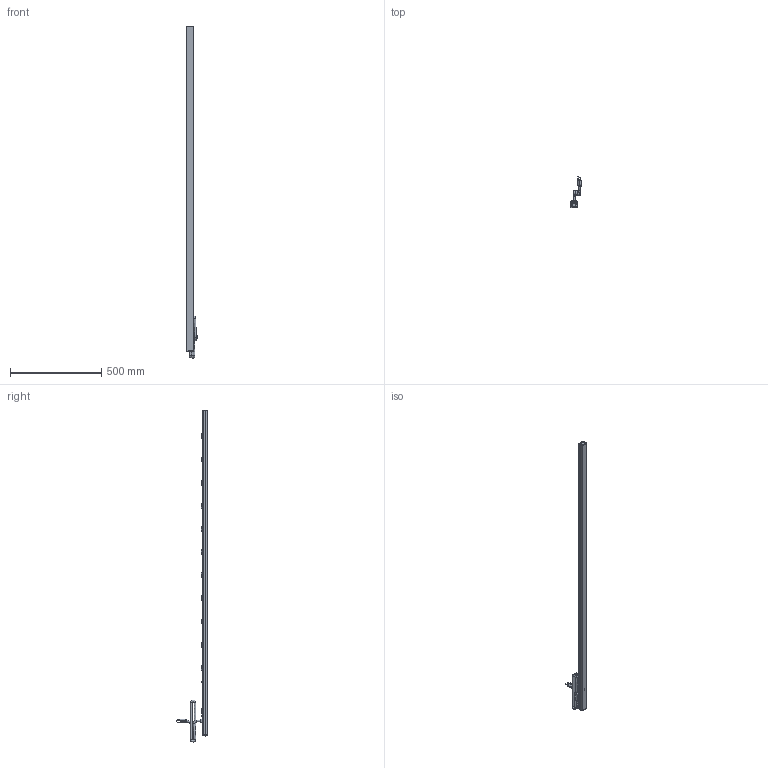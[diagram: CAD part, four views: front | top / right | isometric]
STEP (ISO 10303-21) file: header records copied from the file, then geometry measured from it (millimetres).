
FILE_DESCRIPTION(/* description */ (''),/* implementation_level */ '2;1');
FILE_NAME(/* name */ 'E:\Manufacturing\drawings\Web Drawings\POWER BARS\Surge Protection\1585, 87, 88 ''S'' series\STEP''s\1587T11A1S.stp',/* time_stamp */ '2019-01-14T12:58:12-05:00',/* author */ ('tfoster'),/* organization */ (''),/* preprocessor_version */ 'ST-DEVELOPER v17',/* originating_system */ 'Autodesk Inventor 2019',/* authorisation */ '');
FILE_SCHEMA (('AUTOMOTIVE_DESIGN { 1 0 10303 214 3 1 1 }'));
Length unit declared in the file: inch
Products named in the file (12): 1587T11A1S; 1587H11 top; 1585 bottom; End Cap; End Cap w breaker; Reset Switch; #26872; Cored 2; tamper proof screw; Surge Light; Receptacle; Power light
Assembly tree (24 placements, depth 2):
  1587T11A1S
    1587H11 top
    1585 bottom
    End Cap
    End Cap w breaker
    Reset Switch
    #26872  x4
    Cored 2
    tamper proof screw
    Surge Light
    Receptacle  x11
    Power light
Bounding box: 60.19 x 170.82 x 1821.59 mm (x, y, z)
Volume: 655069.1 mm3; surface area: 664668.7 mm2
Topology: 24 solids, 24 shells, 1271 faces, 3407 edges, 2167 vertices
Faces by surface type: plane 725, cylinder 360, bspline 91, sphere 51, cone 30, torus 14
Full cylindrical faces by diameter (mm): 1.803 x3, 1.905 x2, 2.13 x20, 3 x2, 3.175 x12, 3.505 x12, 4.775 x1, 4.826 x1, 6.858 x1, 7.747 x1, 8 x1, 9.5 x5, 9.652 x1, 11 x1, 15.621 x1, 19.05 x2
Entity records: 26619 total; most frequent: CARTESIAN_POINT 10176, ORIENTED_EDGE 3504, DIRECTION 3052, EDGE_CURVE 1752, VERTEX_POINT 1159, LINE 1074, VECTOR 1074, AXIS2_PLACEMENT_3D 989
